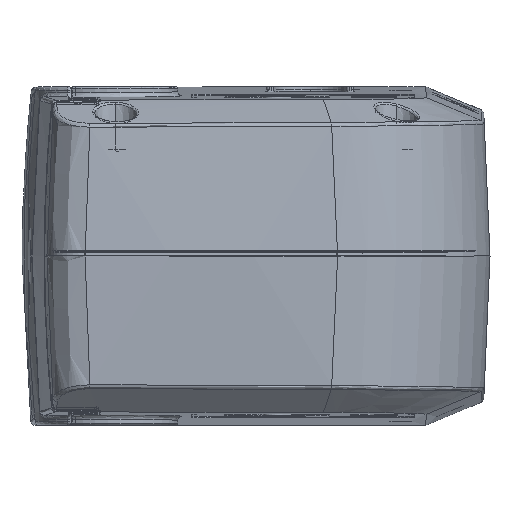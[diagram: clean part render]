
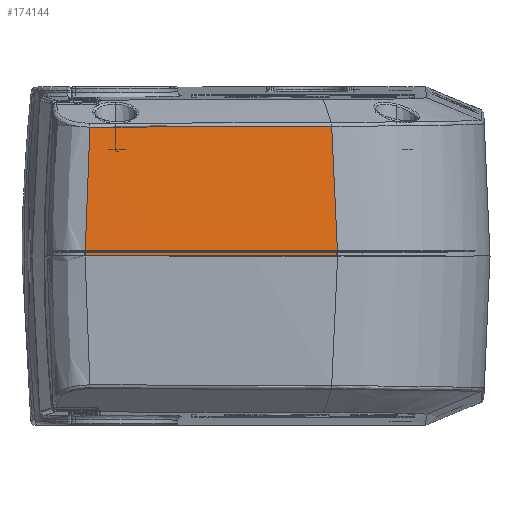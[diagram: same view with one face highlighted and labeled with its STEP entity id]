
A CAD part, left-side view. The second image highlights one B-rep face of the part: STEP entity #174144.
In plain terms, the highlighted conical face has half-angle 2.5 degrees and reference radius 801.027 mm.
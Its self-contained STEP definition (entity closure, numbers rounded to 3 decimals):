
#27393=CARTESIAN_POINT('',(-355.409,34.189,
0.));
#49637=CARTESIAN_POINT('',(-354.323,35.532,
29.019));
#49670=CARTESIAN_POINT('',(-361.632,90.849,
0.));
#49671=CARTESIAN_POINT('',(-361.516,90.863,
2.672));
#49672=CARTESIAN_POINT('',(-361.246,90.822,
8.787));
#49673=CARTESIAN_POINT('',(-360.802,90.499,
18.381));
#49674=CARTESIAN_POINT('',(-360.463,90.049,
25.344));
#49675=CARTESIAN_POINT('',(-360.288,89.767,
28.867));
#49676=CARTESIAN_POINT('',(-360.285,89.763,
28.918));
#49678=CARTESIAN_POINT('',(-360.285,89.763,
28.918));
#49679=CARTESIAN_POINT('',(-359.924,84.981,
28.924));
#49680=CARTESIAN_POINT('',(-359.137,75.68,
28.938));
#49681=CARTESIAN_POINT('',(-357.708,61.697,
28.962));
#49682=CARTESIAN_POINT('',(-356.114,48.398,
28.989));
#49683=CARTESIAN_POINT('',(-354.915,39.624,
29.009));
#49684=CARTESIAN_POINT('',(-354.323,35.532,
29.019));
#49686=CARTESIAN_POINT('',(-354.323,35.532,
29.019));
#49687=CARTESIAN_POINT('',(-354.323,35.529,
29.019));
#49688=CARTESIAN_POINT('',(-354.323,35.525,
29.019));
#49689=CARTESIAN_POINT('',(-354.322,35.519,
29.02));
#49690=CARTESIAN_POINT('',(-354.321,35.515,
29.019));
#49691=CARTESIAN_POINT('',(-354.321,35.513,
29.019));
#49693=CARTESIAN_POINT('',(-354.321,35.513,
29.019));
#49694=CARTESIAN_POINT('',(-354.442,35.366,
25.795));
#49695=CARTESIAN_POINT('',(-354.684,35.072,
19.345));
#49696=CARTESIAN_POINT('',(-355.046,34.63,
9.672));
#49697=CARTESIAN_POINT('',(-355.288,34.336,
3.224));
#49698=CARTESIAN_POINT('',(-355.409,34.189,
0.));
#49700=CARTESIAN_POINT('',(437.843,149.993,
0.));
#49701=DIRECTION('',(0.,0.,1.));
#49702=DIRECTION('',(-0.997,-0.074,0.));
#49703=AXIS2_PLACEMENT_3D('',#49700,#49701,#49702);
#50571=CARTESIAN_POINT('',(-360.285,89.763,
28.918));
#51761=CARTESIAN_POINT('',(-354.321,35.513,
29.019));
#119538=VERTEX_POINT('',#51761);
#119539=VERTEX_POINT('',#27393);
#121504=VERTEX_POINT('',#49637);
#121505=VERTEX_POINT('',#50571);
#121507=VERTEX_POINT('',#49670);
#174130=CARTESIAN_POINT('',(437.843,149.993,
14.51));
#174131=DIRECTION('',(0.,0.,-1.));
#174132=DIRECTION('',(-1.,0.,0.));
#174133=AXIS2_PLACEMENT_3D('',#174130,#174131,#174132);
#174134=CONICAL_SURFACE('',#174133,801.026,2.5);
#174136=ORIENTED_EDGE('',*,*,#174135,.F.);
#174138=ORIENTED_EDGE('',*,*,#174137,.T.);
#174139=ORIENTED_EDGE('',*,*,#174109,.T.);
#174140=ORIENTED_EDGE('',*,*,#174121,.T.);
#174141=ORIENTED_EDGE('',*,*,#152698,.T.);
#174142=EDGE_LOOP('',(#174136,#174138,#174139,#174140,#174141));
#174143=FACE_OUTER_BOUND('',#174142,.F.);
#174144=ADVANCED_FACE('',(#174143),#174134,.T.);
#49677=B_SPLINE_CURVE_WITH_KNOTS('',3,(#49670,#49671,#49672,#49673,#49674,
#49675,#49676),.UNSPECIFIED.,.F.,.F.,(4,1,1,1,4),(0.,0.277,
0.634,0.995,1.),.UNSPECIFIED.);
#49685=B_SPLINE_CURVE_WITH_KNOTS('',3,(#49678,#49679,#49680,#49681,#49682,
#49683,#49684),.UNSPECIFIED.,.F.,.F.,(4,1,1,1,4),(0.,0.264,
0.513,0.773,1.),.UNSPECIFIED.);
#49692=B_SPLINE_CURVE_WITH_KNOTS('',3,(#49686,#49687,#49688,#49689,#49690,
#49691),.UNSPECIFIED.,.F.,.F.,(4,1,1,4),(0.,0.333,
0.667,1.),.UNSPECIFIED.);
#49699=B_SPLINE_CURVE_WITH_KNOTS('',3,(#49693,#49694,#49695,#49696,#49697,
#49698),.UNSPECIFIED.,.F.,.F.,(4,1,1,4),(0.,0.333,
0.667,1.),.UNSPECIFIED.);
#49704=CIRCLE('',#49703,801.66);
#152698=EDGE_CURVE('',#119538,#119539,#49699,.T.);
#174109=EDGE_CURVE('',#121505,#121504,#49685,.T.);
#174121=EDGE_CURVE('',#121504,#119538,#49692,.T.);
#174135=EDGE_CURVE('',#121507,#119539,#49704,.T.);
#174137=EDGE_CURVE('',#121507,#121505,#49677,.T.);
